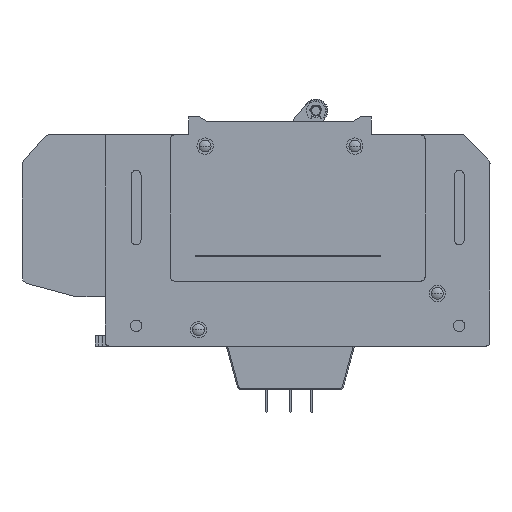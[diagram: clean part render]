
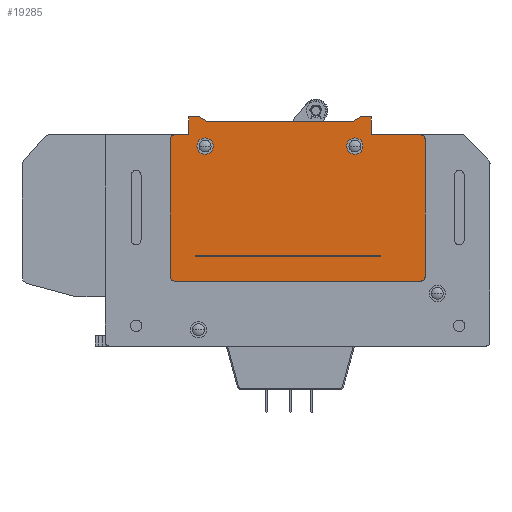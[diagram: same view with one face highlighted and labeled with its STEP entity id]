
A CAD part, left-side view. The second image highlights one B-rep face of the part: STEP entity #19285.
In plain terms, the highlighted planar face has unit normal (-1, 0, 0) as drawn and (0, 0, 1) by its records, which use the part's own axes.
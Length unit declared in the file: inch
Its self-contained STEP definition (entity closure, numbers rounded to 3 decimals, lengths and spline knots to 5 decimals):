
#7141=DIRECTION('',(0.966,0.259,0.));
#7142=VECTOR('',#7141,1.686);
#7143=CARTESIAN_POINT('',(-0.8957,-2.09729,0.513));
#7144=LINE('',#7143,#7142);
#7176=DIRECTION('',(0.259,-0.966,0.));
#7177=VECTOR('',#7176,3.026);
#7178=CARTESIAN_POINT('',(-1.75482,0.86944,0.513));
#7179=LINE('',#7178,#7177);
#7232=CARTESIAN_POINT('',(-0.06638,1.32186,0.513));
#7233=DIRECTION('',(0.,0.,-1.));
#7234=DIRECTION('',(-0.259,0.966,0.));
#7235=AXIS2_PLACEMENT_3D('',#7232,#7233,#7234);
#7240=DIRECTION('',(0.259,-0.966,0.));
#7241=VECTOR('',#7240,0.169);
#7242=CARTESIAN_POINT('',(-0.0065,1.33791,0.513));
#7243=LINE('',#7242,#7241);
#7247=DIRECTION('',(0.966,0.259,0.));
#7248=VECTOR('',#7247,0.22);
#7249=CARTESIAN_POINT('',(0.03724,1.17467,0.513));
#7250=LINE('',#7249,#7248);
#7254=DIRECTION('',(0.259,-0.966,0.));
#7255=VECTOR('',#7254,0.125);
#7256=CARTESIAN_POINT('',(0.24975,1.23161,0.513));
#7257=LINE('',#7256,#7255);
#7261=DIRECTION('',(-0.259,-0.966,0.));
#7262=VECTOR('',#7261,0.12);
#7263=CARTESIAN_POINT('',(0.2821,1.11086,0.513));
#7264=LINE('',#7263,#7262);
#7268=DIRECTION('',(0.259,-0.966,0.));
#7269=VECTOR('',#7268,1.79215);
#7270=CARTESIAN_POINT('',(0.25104,0.99495,0.513));
#7271=LINE('',#7270,#7269);
#7275=DIRECTION('',(0.707,-0.707,0.));
#7276=VECTOR('',#7275,0.12);
#7277=CARTESIAN_POINT('',(0.71488,-0.73613,0.513));
#7278=LINE('',#7277,#7276);
#7282=DIRECTION('',(0.259,-0.966,0.));
#7283=VECTOR('',#7282,0.125);
#7284=CARTESIAN_POINT('',(0.79974,-0.82099,0.513));
#7285=LINE('',#7284,#7283);
#7289=DIRECTION('',(-0.966,-0.259,0.));
#7290=VECTOR('',#7289,0.22);
#7291=CARTESIAN_POINT('',(0.83209,-0.94173,0.513));
#7292=LINE('',#7291,#7290);
#7296=DIRECTION('',(0.259,-0.966,0.));
#7297=VECTOR('',#7296,0.607);
#7298=CARTESIAN_POINT('',(0.61959,-0.99867,0.513));
#7299=LINE('',#7298,#7297);
#7303=CARTESIAN_POINT('',(0.7168,-1.60103,0.513));
#7304=DIRECTION('',(0.,0.,-1.));
#7305=DIRECTION('',(0.966,0.259,0.));
#7306=AXIS2_PLACEMENT_3D('',#7303,#7304,#7305);
#7311=CARTESIAN_POINT('',(-0.91175,-2.0374,0.513));
#7312=DIRECTION('',(0.,0.,-1.));
#7313=DIRECTION('',(0.259,-0.966,0.));
#7314=AXIS2_PLACEMENT_3D('',#7311,#7312,#7313);
#7319=CARTESIAN_POINT('',(-1.69494,0.88549,0.513));
#7320=DIRECTION('',(0.,0.,-1.));
#7321=DIRECTION('',(-0.966,-0.259,0.));
#7322=AXIS2_PLACEMENT_3D('',#7319,#7320,#7321);
#7327=DIRECTION('',(0.966,0.259,0.));
#7328=VECTOR('',#7327,1.686);
#7329=CARTESIAN_POINT('',(-1.71098,0.94538,0.513));
#7330=LINE('',#7329,#7328);
#7334=CARTESIAN_POINT('',(-0.04622,0.94525,0.513));
#7335=DIRECTION('',(0.,0.,1.));
#7336=DIRECTION('',(0.966,0.259,0.));
#7337=AXIS2_PLACEMENT_3D('',#7334,#7335,#7336);
#7342=CARTESIAN_POINT('',(-0.04622,0.94525,0.513));
#7343=DIRECTION('',(0.,0.,1.));
#7344=DIRECTION('',(-0.966,-0.259,0.));
#7345=AXIS2_PLACEMENT_3D('',#7342,#7343,#7344);
#7350=CARTESIAN_POINT('',(0.43259,-0.84172,0.513));
#7351=DIRECTION('',(0.,0.,1.));
#7352=DIRECTION('',(0.966,0.259,0.));
#7353=AXIS2_PLACEMENT_3D('',#7350,#7351,#7352);
#7358=CARTESIAN_POINT('',(0.43259,-0.84172,0.513));
#7359=DIRECTION('',(0.,0.,1.));
#7360=DIRECTION('',(-0.966,-0.259,0.));
#7361=AXIS2_PLACEMENT_3D('',#7358,#7359,#7360);
#9260=CARTESIAN_POINT('',(0.03724,1.17467,0.513));
#9261=VERTEX_POINT('',#9260);
#9270=CARTESIAN_POINT('',(0.2821,1.11086,0.513));
#9271=VERTEX_POINT('',#9270);
#9272=CARTESIAN_POINT('',(0.24975,1.23161,0.513));
#9273=VERTEX_POINT('',#9272);
#9286=CARTESIAN_POINT('',(0.25104,0.99495,0.513));
#9287=VERTEX_POINT('',#9286);
#9307=CARTESIAN_POINT('',(0.71488,-0.73613,0.513));
#9308=VERTEX_POINT('',#9307);
#9342=CARTESIAN_POINT('',(0.79974,-0.82099,0.513));
#9343=VERTEX_POINT('',#9342);
#9348=CARTESIAN_POINT('',(0.83209,-0.94173,0.513));
#9349=VERTEX_POINT('',#9348);
#9443=CARTESIAN_POINT('',(0.61959,-0.99867,0.513));
#9444=VERTEX_POINT('',#9443);
#9567=CARTESIAN_POINT('',(-0.08243,1.38175,0.513));
#9568=CARTESIAN_POINT('',(-0.0065,1.33791,0.513));
#9569=VERTEX_POINT('',#9567);
#9570=VERTEX_POINT('',#9568);
#9571=CARTESIAN_POINT('',(0.77669,-1.58499,0.513));
#9572=VERTEX_POINT('',#9571);
#9573=CARTESIAN_POINT('',(0.73285,-1.66092,0.513));
#9574=VERTEX_POINT('',#9573);
#9575=CARTESIAN_POINT('',(-0.8957,-2.09729,0.513));
#9576=VERTEX_POINT('',#9575);
#9577=CARTESIAN_POINT('',(-0.97164,-2.05345,0.513));
#9578=VERTEX_POINT('',#9577);
#9579=CARTESIAN_POINT('',(-1.75482,0.86944,0.513));
#9580=VERTEX_POINT('',#9579);
#9581=CARTESIAN_POINT('',(-1.71098,0.94538,0.513));
#9582=VERTEX_POINT('',#9581);
#9583=CARTESIAN_POINT('',(0.05037,0.97113,0.513));
#9584=CARTESIAN_POINT('',(-0.14282,0.91936,0.513));
#9585=VERTEX_POINT('',#9583);
#9586=VERTEX_POINT('',#9584);
#9587=CARTESIAN_POINT('',(0.52919,-0.81584,0.513));
#9588=CARTESIAN_POINT('',(0.336,-0.8676,0.513));
#9589=VERTEX_POINT('',#9587);
#9590=VERTEX_POINT('',#9588);
#19243=CARTESIAN_POINT('',(-0.38281,-0.3293,0.513));
#19244=DIRECTION('',(0.,0.,1.));
#19245=DIRECTION('',(0.966,0.259,0.));
#19246=AXIS2_PLACEMENT_3D('',#19243,#19244,#19245);
#19247=PLANE('',#19246);
#19248=ORIENTED_EDGE('',*,*,#19238,.T.);
#19249=ORIENTED_EDGE('',*,*,#10898,.T.);
#19251=ORIENTED_EDGE('',*,*,#19250,.T.);
#19253=ORIENTED_EDGE('',*,*,#19252,.T.);
#19255=ORIENTED_EDGE('',*,*,#19254,.T.);
#19257=ORIENTED_EDGE('',*,*,#19256,.T.);
#19259=ORIENTED_EDGE('',*,*,#19258,.T.);
#19261=ORIENTED_EDGE('',*,*,#19260,.T.);
#19263=ORIENTED_EDGE('',*,*,#19262,.T.);
#19264=ORIENTED_EDGE('',*,*,#18954,.T.);
#19265=ORIENTED_EDGE('',*,*,#19138,.T.);
#19266=ORIENTED_EDGE('',*,*,#19155,.F.);
#19267=ORIENTED_EDGE('',*,*,#19172,.T.);
#19268=ORIENTED_EDGE('',*,*,#19189,.F.);
#19269=ORIENTED_EDGE('',*,*,#19206,.T.);
#19270=ORIENTED_EDGE('',*,*,#19223,.T.);
#19271=EDGE_LOOP('',(#19248,#19249,#19251,#19253,#19255,#19257,#19259,#19261,
#19263,#19264,#19265,#19266,#19267,#19268,#19269,#19270));
#19272=FACE_OUTER_BOUND('',#19271,.F.);
#19274=ORIENTED_EDGE('',*,*,#19273,.T.);
#19276=ORIENTED_EDGE('',*,*,#19275,.T.);
#19277=EDGE_LOOP('',(#19274,#19276));
#19278=FACE_BOUND('',#19277,.F.);
#19280=ORIENTED_EDGE('',*,*,#19279,.T.);
#19282=ORIENTED_EDGE('',*,*,#19281,.T.);
#19283=EDGE_LOOP('',(#19280,#19282));
#19284=FACE_BOUND('',#19283,.F.);
#7236=CIRCLE('',#7235,0.062);
#7307=CIRCLE('',#7306,0.062);
#7315=CIRCLE('',#7314,0.062);
#7323=CIRCLE('',#7322,0.062);
#7338=CIRCLE('',#7337,0.1);
#7346=CIRCLE('',#7345,0.1);
#7354=CIRCLE('',#7353,0.1);
#7362=CIRCLE('',#7361,0.1);
#10898=EDGE_CURVE('',#9570,#9261,#7243,.T.);
#18954=EDGE_CURVE('',#9444,#9572,#7299,.T.);
#19138=EDGE_CURVE('',#9572,#9574,#7307,.T.);
#19155=EDGE_CURVE('',#9576,#9574,#7144,.T.);
#19172=EDGE_CURVE('',#9576,#9578,#7315,.T.);
#19189=EDGE_CURVE('',#9580,#9578,#7179,.T.);
#19206=EDGE_CURVE('',#9580,#9582,#7323,.T.);
#19223=EDGE_CURVE('',#9582,#9569,#7330,.T.);
#19238=EDGE_CURVE('',#9569,#9570,#7236,.T.);
#19250=EDGE_CURVE('',#9261,#9273,#7250,.T.);
#19252=EDGE_CURVE('',#9273,#9271,#7257,.T.);
#19254=EDGE_CURVE('',#9271,#9287,#7264,.T.);
#19256=EDGE_CURVE('',#9287,#9308,#7271,.T.);
#19258=EDGE_CURVE('',#9308,#9343,#7278,.T.);
#19260=EDGE_CURVE('',#9343,#9349,#7285,.T.);
#19262=EDGE_CURVE('',#9349,#9444,#7292,.T.);
#19273=EDGE_CURVE('',#9585,#9586,#7338,.T.);
#19275=EDGE_CURVE('',#9586,#9585,#7346,.T.);
#19279=EDGE_CURVE('',#9589,#9590,#7354,.T.);
#19281=EDGE_CURVE('',#9590,#9589,#7362,.T.);
#19285=ADVANCED_FACE('',(#19272,#19278,#19284),#19247,.T.);
